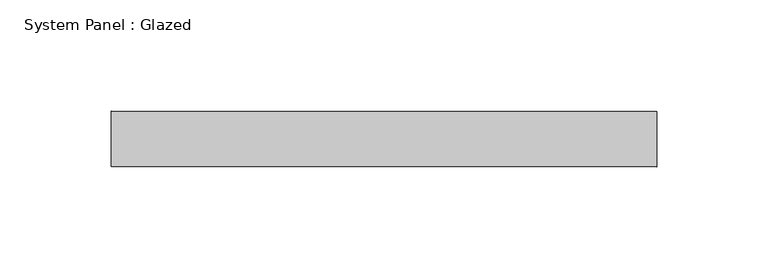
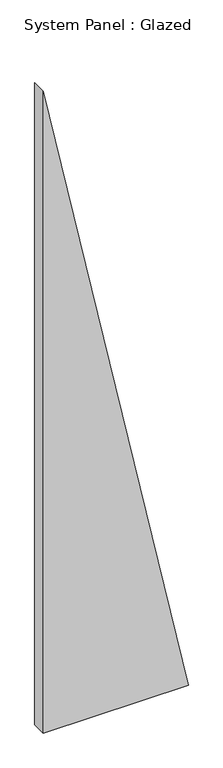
"""IFC4 building model written with IfcOpenShell, lengths in millimetres: plate geometry, System Panel : Glazed."""

from ifc_helpers import new_model, si_unit, frame, origin, place, context, project, spatial, polyline, outline, extrude, source, transform, mapped, element, save


def system_panel_glazed_e1aeb1aa(model_context):
    return source(origin(), model_context, "Body", "SweptSolid", [
        extrude(outline(polyline([(0.0, -122.7037836), (0.0, 122.7037836), (1147.6176423, -122.7037836), (0.0, -122.7037836)])), frame((0.0, -49.5, 0.0), z_axis=(0.0, 1.0, 0.0), x_axis=(0.0, 0.0, 1.0)), (0.0, 0.0, 1.0), 25.0),
    ])


if __name__ == "__main__":
    model = new_model("IFC4")
    model_context = context("Model", 3, world=origin())
    ifc_project = project(units=[si_unit("LENGTHUNIT", "METRE", prefix="MILLI")], contexts=[model_context])
    site = spatial("IfcSite", under=ifc_project)
    building = spatial("IfcBuilding", under=site)
    placement = place(None, origin())
    system_panel_glazed_shape = system_panel_glazed_e1aeb1aa(model_context)
    element("IfcPlate", 1, ObjectType="System Panel : Glazed", at=placement, inside=building, context=model_context, shape_type="MappedRepresentation", body=[
        mapped(system_panel_glazed_shape, transform((0.0, 0.0, 0.0), x_axis=(1.0, 0.0, 0.0), y_axis=(0.0, 1.0, 0.0), z_axis=(0.0, 0.0, 1.0))),
    ])
    save(model, "model.ifc")
